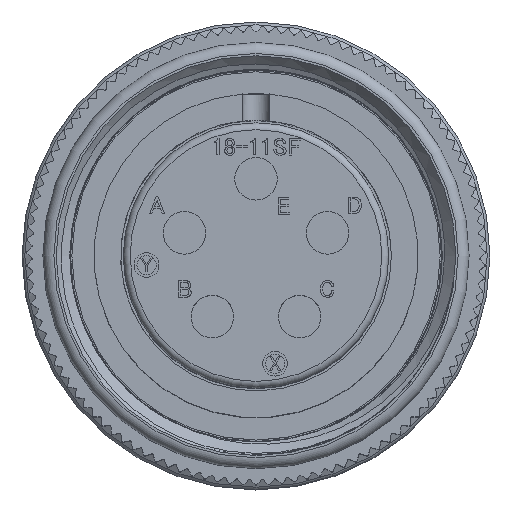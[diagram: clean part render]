
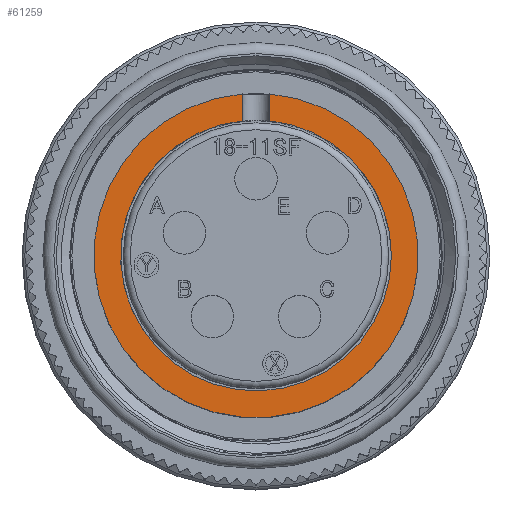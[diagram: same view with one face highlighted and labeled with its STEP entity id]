
A CAD part, top view. The second image highlights one B-rep face of the part: STEP entity #61259.
In plain terms, the highlighted planar face has unit normal (0, 0, 1).
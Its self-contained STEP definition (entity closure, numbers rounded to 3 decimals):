
#3025 = CARTESIAN_POINT ( 'NONE',  ( -1., 12.223, 0. ) ) ;
#4072 = CARTESIAN_POINT ( 'NONE',  ( 1., 11.768, 0. ) ) ;
#6806 = CARTESIAN_POINT ( 'NONE',  ( 1., 9.809, 0. ) ) ;
#7245 = CARTESIAN_POINT ( 'NONE',  ( 1., 12.223, 0. ) ) ;
#7846 = VERTEX_POINT ( 'NONE', #4072 ) ;
#9999 = DIRECTION ( 'NONE',  ( 1., 0., 0. ) ) ;
#14299 = CARTESIAN_POINT ( 'NONE',  ( 0., 9.86, 0. ) ) ;
#14860 = EDGE_CURVE ( 'NONE', #40208, #7846, #38296, .T. ) ;
#20454 = PLANE ( 'NONE',  #67712 ) ;
#20618 = DIRECTION ( 'NONE',  ( 0., 0., 1. ) ) ;
#20691 = DIRECTION ( 'NONE',  ( -1., 0., 0. ) ) ;
#21851 = EDGE_CURVE ( 'NONE', #61520, #39566, #24075, .T. ) ;
#24075 = CIRCLE ( 'NONE', #37108, 9.86 ) ;
#25566 = DIRECTION ( 'NONE',  ( 0., 0., -1. ) ) ;
#29163 = EDGE_LOOP ( 'NONE', ( #38478, #42464, #48725, #60633 ) ) ;
#29977 = FACE_OUTER_BOUND ( 'NONE', #29163, .T. ) ;
#30478 = EDGE_CURVE ( 'NONE', #40208, #61520, #64549, .T. ) ;
#31684 = CARTESIAN_POINT ( 'NONE',  ( -1., 11.768, 0. ) ) ;
#32296 = DIRECTION ( 'NONE',  ( 1., 0., 0. ) ) ;
#32607 = VECTOR ( 'NONE', #57406, 1000. ) ;
#35251 = EDGE_CURVE ( 'NONE', #39566, #7846, #67678, .T. ) ;
#37108 = AXIS2_PLACEMENT_3D ( 'NONE', #61370, #72164, #9999 ) ;
#38296 = CIRCLE ( 'NONE', #65522, 11.81 ) ;
#38478 = ORIENTED_EDGE ( 'NONE', *, *, #14860, .T. ) ;
#39566 = VERTEX_POINT ( 'NONE', #6806 ) ;
#40208 = VERTEX_POINT ( 'NONE', #31684 ) ;
#42464 = ORIENTED_EDGE ( 'NONE', *, *, #35251, .F. ) ;
#47834 = DIRECTION ( 'NONE',  ( 0., -1., 0. ) ) ;
#48725 = ORIENTED_EDGE ( 'NONE', *, *, #21851, .F. ) ;
#54562 = CARTESIAN_POINT ( 'NONE',  ( 0., 0., 0. ) ) ;
#56315 = CARTESIAN_POINT ( 'NONE',  ( -1., 9.809, 0. ) ) ;
#57406 = DIRECTION ( 'NONE',  ( 0., 1., 0. ) ) ;
#60633 = ORIENTED_EDGE ( 'NONE', *, *, #30478, .F. ) ;
#61259 = ADVANCED_FACE ( 'NONE', ( #29977 ), #20454, .F. ) ;
#61370 = CARTESIAN_POINT ( 'NONE',  ( 0., 0., 0. ) ) ;
#61520 = VERTEX_POINT ( 'NONE', #56315 ) ;
#64549 = LINE ( 'NONE', #3025, #71571 ) ;
#65522 = AXIS2_PLACEMENT_3D ( 'NONE', #54562, #20618, #32296 ) ;
#67678 = LINE ( 'NONE', #7245, #32607 ) ;
#67712 = AXIS2_PLACEMENT_3D ( 'NONE', #14299, #25566, #20691 ) ;
#71571 = VECTOR ( 'NONE', #47834, 1000. ) ;
#72164 = DIRECTION ( 'NONE',  ( 0., 0., 1. ) ) ;
